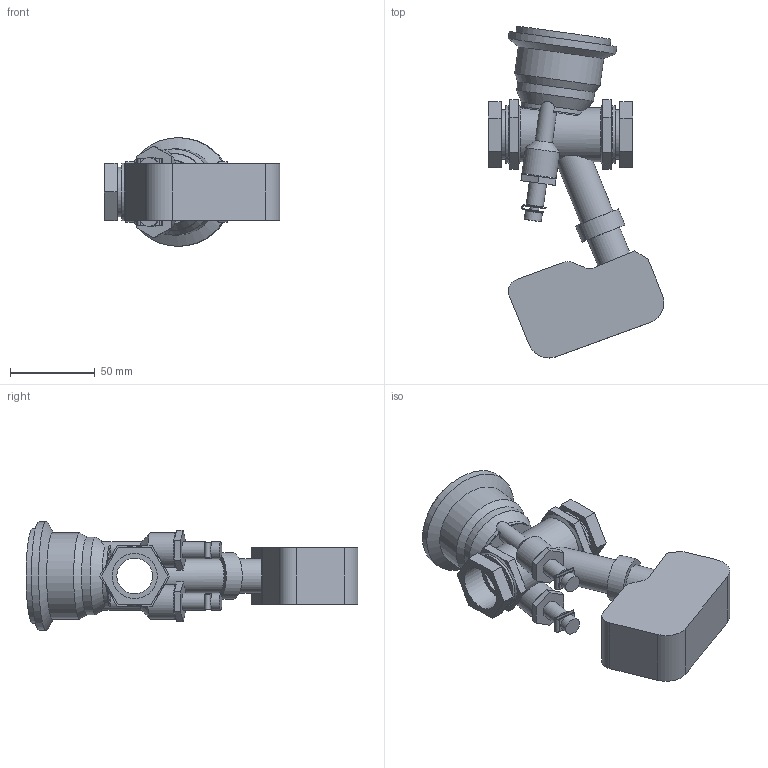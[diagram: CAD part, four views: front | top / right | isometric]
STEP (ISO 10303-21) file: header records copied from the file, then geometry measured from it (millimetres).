
FILE_DESCRIPTION(/* description */ ('VIC BALANCING AND CONTROL VALVE SERIES 7CP (FPT)-TA SLIDER 160 PLUS','CAx-IF Rec.Pracs.---Representation and Presentation of Product Manufacturing Information (PMI)---4.0---2014-10-13'),/* implementation_level */ '2;1');
FILE_NAME(/* name */ 'C:\Users\Vjadhav\AppData\Roaming\Autodesk\ApplicationPlugins\Victaulic.Temp\A633\Victaulic_IPS_Valve Balancing Pressure Independent_TA Series 7CP (FPT)_Slider 160 Plus_0.75 (20).stp',/* time_stamp */ '2021-09-14T20:03:34+06:00',/* author */ ('Vjadhav'),/* organization */ ('Victaulic'),/* preprocessor_version */ 'ST-DEVELOPER v17.2',/* originating_system */ 'Autodesk Inventor 2019',/* authorisation */ '');
FILE_SCHEMA (('AP242_MANAGED_MODEL_BASED_3D_ENGINEERING_MIM_LF { 1 0 10303 442 1 1 4 }'));
Length unit declared in the file: inch
Products named in the file (2): 7CP_Slider 160 Plus-0.75; 7CP-0.75
Assembly tree (1 placements, depth 2):
  7CP_Slider 160 Plus-0.75
    7CP-0.75
Bounding box: 103.39 x 195.58 x 64.01 mm (x, y, z)
Volume: 287405 mm3; surface area: 57517.9 mm2
Topology: 1 solids, 1 shells, 173 faces, 441 edges, 294 vertices
Faces by surface type: plane 116, cylinder 48, cone 9
Full cylindrical faces by diameter (mm): 5.08 x6, 10.16 x8, 20.32 x4, 20.93 x2, 26.67 x3, 27.184 x1, 29.21 x2, 31.75 x1, 33.782 x2, 45.72 x1, 50.8 x1, 55.88 x1, 64.008 x1
Entity records: 5824 total; most frequent: CARTESIAN_POINT 1182, DIRECTION 945, ORIENTED_EDGE 882, EDGE_CURVE 441, AXIS2_PLACEMENT_3D 349, VERTEX_POINT 294, LINE 247, VECTOR 247
